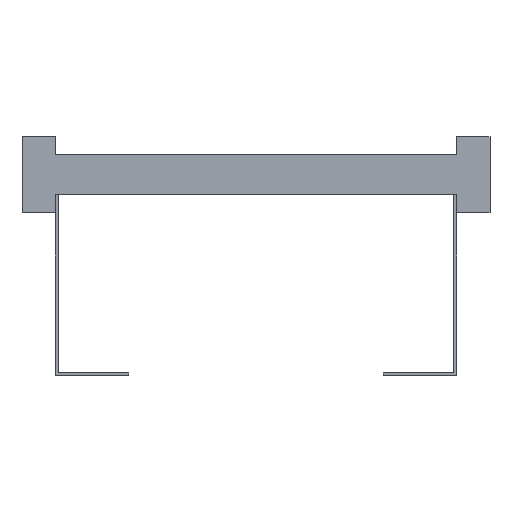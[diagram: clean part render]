
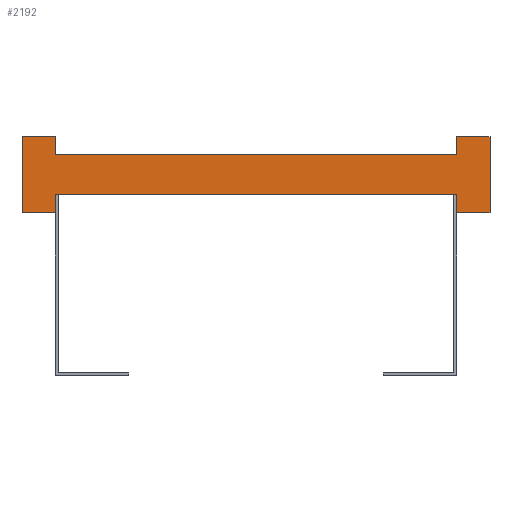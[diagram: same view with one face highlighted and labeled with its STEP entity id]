
A CAD part, front view. The second image highlights one B-rep face of the part: STEP entity #2192.
In plain terms, the highlighted planar face has unit normal (0, -1, 0).
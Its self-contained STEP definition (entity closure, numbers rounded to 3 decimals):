
#745=DIRECTION('',(0.,0.,1.));
#746=VECTOR('',#745,13.5);
#747=CARTESIAN_POINT('',(150.,0.,-28.5));
#748=LINE('',#747,#746);
#749=DIRECTION('',(0.,0.,-1.));
#750=VECTOR('',#749,13.5);
#751=CARTESIAN_POINT('',(-150.,0.,-15.));
#752=LINE('',#751,#750);
#753=DIRECTION('',(-1.,0.,0.));
#754=VECTOR('',#753,25.);
#755=CARTESIAN_POINT('',(-150.,0.,-28.5));
#756=LINE('',#755,#754);
#757=DIRECTION('',(0.,0.,1.));
#758=VECTOR('',#757,57.);
#759=CARTESIAN_POINT('',(-175.,0.,-28.5));
#760=LINE('',#759,#758);
#761=DIRECTION('',(1.,0.,0.));
#762=VECTOR('',#761,25.);
#763=CARTESIAN_POINT('',(-175.,0.,28.5));
#764=LINE('',#763,#762);
#765=DIRECTION('',(0.,0.,-1.));
#766=VECTOR('',#765,13.5);
#767=CARTESIAN_POINT('',(-150.,0.,28.5));
#768=LINE('',#767,#766);
#769=DIRECTION('',(0.,0.,1.));
#770=VECTOR('',#769,13.5);
#771=CARTESIAN_POINT('',(150.,0.,15.));
#772=LINE('',#771,#770);
#773=DIRECTION('',(1.,0.,0.));
#774=VECTOR('',#773,25.);
#775=CARTESIAN_POINT('',(150.,0.,28.5));
#776=LINE('',#775,#774);
#777=DIRECTION('',(0.,0.,-1.));
#778=VECTOR('',#777,57.);
#779=CARTESIAN_POINT('',(175.,0.,28.5));
#780=LINE('',#779,#778);
#781=DIRECTION('',(-1.,0.,0.));
#782=VECTOR('',#781,25.);
#783=CARTESIAN_POINT('',(175.,0.,-28.5));
#784=LINE('',#783,#782);
#785=DIRECTION('',(1.,0.,0.));
#786=VECTOR('',#785,300.);
#787=CARTESIAN_POINT('',(-150.,0.,-15.));
#788=LINE('',#787,#786);
#797=DIRECTION('',(1.,0.,0.));
#798=VECTOR('',#797,300.);
#799=CARTESIAN_POINT('',(-150.,0.,15.));
#800=LINE('',#799,#798);
#1025=CARTESIAN_POINT('',(-175.,0.,28.5));
#1026=CARTESIAN_POINT('',(-150.,0.,28.5));
#1027=VERTEX_POINT('',#1025);
#1028=VERTEX_POINT('',#1026);
#1029=CARTESIAN_POINT('',(-150.,0.,-28.5));
#1030=CARTESIAN_POINT('',(-175.,0.,-28.5));
#1031=VERTEX_POINT('',#1029);
#1032=VERTEX_POINT('',#1030);
#1033=CARTESIAN_POINT('',(175.,0.,28.5));
#1034=CARTESIAN_POINT('',(175.,0.,-28.5));
#1035=VERTEX_POINT('',#1033);
#1036=VERTEX_POINT('',#1034);
#1037=CARTESIAN_POINT('',(150.,0.,-28.5));
#1038=VERTEX_POINT('',#1037);
#1039=CARTESIAN_POINT('',(150.,0.,28.5));
#1040=VERTEX_POINT('',#1039);
#1041=CARTESIAN_POINT('',(-150.,0.,-15.));
#1043=VERTEX_POINT('',#1041);
#1045=CARTESIAN_POINT('',(-150.,0.,15.));
#1047=VERTEX_POINT('',#1045);
#1049=CARTESIAN_POINT('',(150.,0.,-15.));
#1051=VERTEX_POINT('',#1049);
#1053=CARTESIAN_POINT('',(150.,0.,15.));
#1055=VERTEX_POINT('',#1053);
#2167=CARTESIAN_POINT('',(0.,0.,0.));
#2168=DIRECTION('',(0.,1.,0.));
#2169=DIRECTION('',(1.,0.,0.));
#2170=AXIS2_PLACEMENT_3D('',#2167,#2168,#2169);
#2171=PLANE('',#2170);
#2172=ORIENTED_EDGE('',*,*,#1400,.T.);
#2174=ORIENTED_EDGE('',*,*,#2173,.F.);
#2175=ORIENTED_EDGE('',*,*,#1546,.T.);
#2176=ORIENTED_EDGE('',*,*,#2114,.T.);
#2178=ORIENTED_EDGE('',*,*,#2177,.T.);
#2179=ORIENTED_EDGE('',*,*,#2160,.T.);
#2180=ORIENTED_EDGE('',*,*,#1554,.T.);
#2182=ORIENTED_EDGE('',*,*,#2181,.T.);
#2183=ORIENTED_EDGE('',*,*,#1392,.T.);
#2185=ORIENTED_EDGE('',*,*,#2184,.T.);
#2187=ORIENTED_EDGE('',*,*,#2186,.T.);
#2189=ORIENTED_EDGE('',*,*,#2188,.T.);
#2190=EDGE_LOOP('',(#2172,#2174,#2175,#2176,#2178,#2179,#2180,#2182,#2183,#2185,
#2187,#2189));
#2191=FACE_OUTER_BOUND('',#2190,.F.);
#1392=EDGE_CURVE('',#1055,#1040,#772,.T.);
#1400=EDGE_CURVE('',#1038,#1051,#748,.T.);
#1546=EDGE_CURVE('',#1043,#1031,#752,.T.);
#1554=EDGE_CURVE('',#1028,#1047,#768,.T.);
#2114=EDGE_CURVE('',#1031,#1032,#756,.T.);
#2160=EDGE_CURVE('',#1027,#1028,#764,.T.);
#2173=EDGE_CURVE('',#1043,#1051,#788,.T.);
#2177=EDGE_CURVE('',#1032,#1027,#760,.T.);
#2181=EDGE_CURVE('',#1047,#1055,#800,.T.);
#2184=EDGE_CURVE('',#1040,#1035,#776,.T.);
#2186=EDGE_CURVE('',#1035,#1036,#780,.T.);
#2188=EDGE_CURVE('',#1036,#1038,#784,.T.);
#2192=ADVANCED_FACE('',(#2191),#2171,.F.);
